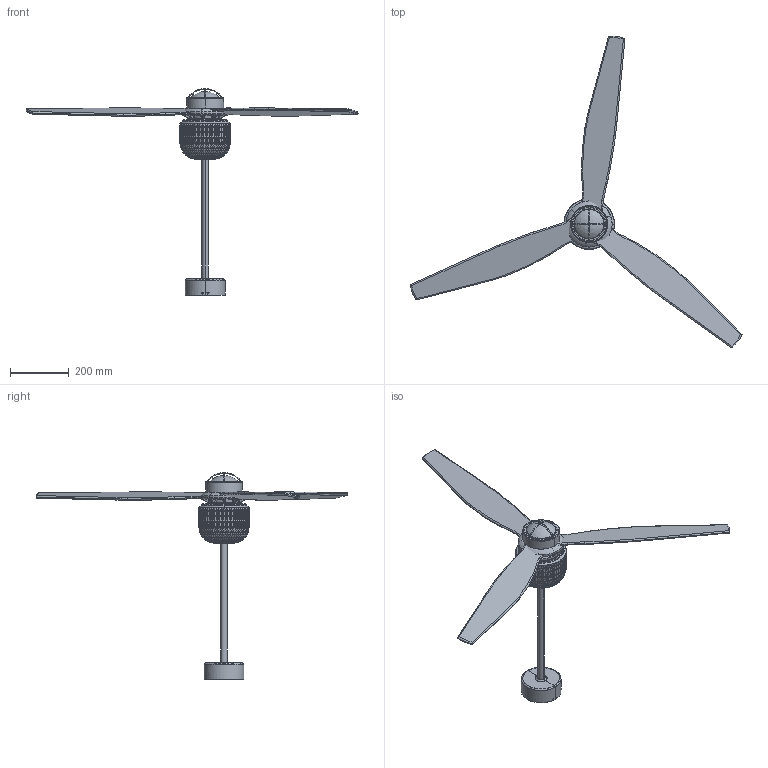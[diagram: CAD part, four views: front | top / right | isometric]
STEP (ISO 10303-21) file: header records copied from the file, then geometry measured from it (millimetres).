
FILE_DESCRIPTION(/* description */ (''),/* implementation_level */ '2;1');
FILE_NAME(/* name */ 'C:\Users\Franco Sartori E\Documents\FARO\DUPLICADO\Modelos\01_Digitalizados\0_DecoFAN\03_Publicación\33398D-10.stp',/* time_stamp */ '2021-03-18T13:41:57+01:00',/* author */ ('Franco Sartori E'),/* organization */ (''),/* preprocessor_version */ 'ST-DEVELOPER v18.1',/* originating_system */ 'AutoCAD Mechanical',/* authorisation */ '');
FILE_SCHEMA (('AUTOMOTIVE_DESIGN { 1 0 10303 214 3 1 1 }'));
Products named in the file (3): Product; 32100_33394_33395_33398_33399_33417_33418_JUSTFAN_LK - JUST FAN-46042
1-_3D_; 33390_33391LigKIT - LT-460420-_3D_
Assembly tree (2 placements, depth 2):
  Product
    32100_33394_33395_33398_33399_33417_33418_JUSTFAN_LK - JUST FAN-46042
1-_3D_
    33390_33391LigKIT - LT-460420-_3D_
Bounding box: 1127.17 x 1058.55 x 701.9 mm (x, y, z)
Volume: 3294334.6 mm3; surface area: 860624 mm2
Topology: 23 solids, 24 shells, 1962 faces, 5467 edges, 3550 vertices
Faces by surface type: bspline 1272, cylinder 221, plane 218, torus 175, cone 72, sphere 4
Entity records: 139765 total; most frequent: CARTESIAN_POINT 101344, ORIENTED_EDGE 10846, EDGE_CURVE 5467, B_SPLINE_CURVE_WITH_KNOTS 4301, VERTEX_POINT 3550, DIRECTION 3096, EDGE_LOOP 2031, FACE_OUTER_BOUND 1962
